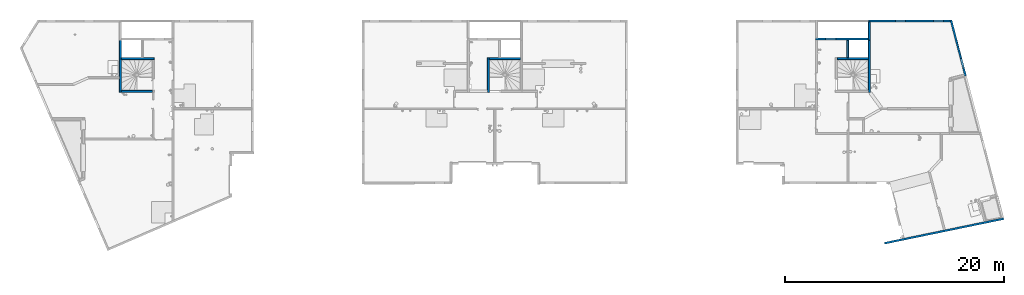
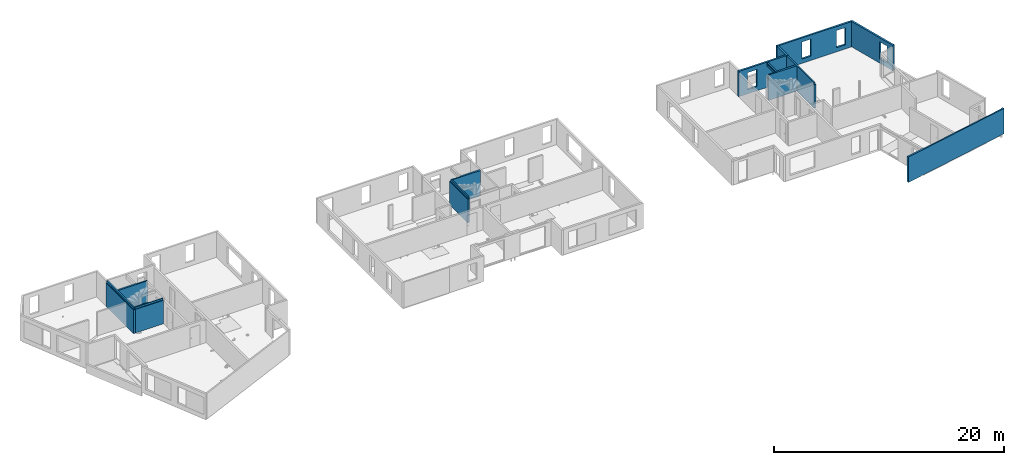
# One storey, part 16 of 24: 13 walls, 9 openings.
"""IFC2X3 building model written with IfcOpenShell, lengths in centimetres."""

from ifc_helpers import new_model, entity, si_unit, converted_unit, derived_unit, direction, frame, frame_2d, origin, place, context, subcontext, project, spatial, polyline, rectangle, outline, extrude, clip, bounded_halfspace, faceted_brep, material, layer, layer_set, layer_usage, type_object, element, save


model = new_model("IFC2X3")

# Units and contexts
model_context = context("Model", 3, precision=0.001, world=origin(), true_north=direction((6.12303176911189e-17, 1.0)))
body_context = subcontext(model_context, "Body", "Model", "MODEL_VIEW")
ifc_project = project(units=[si_unit("LENGTHUNIT", "METRE", prefix="CENTI"), si_unit("AREAUNIT", "SQUARE_METRE"), si_unit("VOLUMEUNIT", "CUBIC_METRE"), converted_unit("PLANEANGLEUNIT", "DEGREE", entity("IfcRatioMeasure", 0.0174532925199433), si_unit("PLANEANGLEUNIT", "RADIAN"), dimensions=[0, 0, 0, 0, 0, 0, 0]), si_unit("MASSUNIT", "GRAM", prefix="KILO"), derived_unit("MASSDENSITYUNIT", [(si_unit("MASSUNIT", "GRAM", prefix="KILO"), 1), (si_unit("LENGTHUNIT", "METRE"), -3)]), si_unit("TIMEUNIT", "SECOND"), si_unit("FREQUENCYUNIT", "HERTZ"), si_unit("THERMODYNAMICTEMPERATUREUNIT", "DEGREE_CELSIUS"), derived_unit("THERMALTRANSMITTANCEUNIT", [(si_unit("MASSUNIT", "GRAM", prefix="KILO"), 1), (si_unit("THERMODYNAMICTEMPERATUREUNIT", "KELVIN"), -1), (si_unit("TIMEUNIT", "SECOND"), -3)]), derived_unit("VOLUMETRICFLOWRATEUNIT", [(si_unit("LENGTHUNIT", "METRE"), 3), (si_unit("TIMEUNIT", "SECOND"), -1)]), si_unit("ELECTRICCURRENTUNIT", "AMPERE"), si_unit("ELECTRICVOLTAGEUNIT", "VOLT"), si_unit("POWERUNIT", "WATT"), si_unit("FORCEUNIT", "NEWTON"), si_unit("ILLUMINANCEUNIT", "LUX"), si_unit("LUMINOUSFLUXUNIT", "LUMEN"), si_unit("LUMINOUSINTENSITYUNIT", "CANDELA"), derived_unit("USERDEFINED", [(si_unit("MASSUNIT", "GRAM", prefix="KILO"), -1), (si_unit("LENGTHUNIT", "METRE"), -2), (si_unit("TIMEUNIT", "SECOND"), 3), (si_unit("LUMINOUSFLUXUNIT", "LUMEN"), 1)]), derived_unit("LINEARVELOCITYUNIT", [(si_unit("LENGTHUNIT", "METRE"), 1), (si_unit("TIMEUNIT", "SECOND"), -1)]), si_unit("PRESSUREUNIT", "PASCAL"), derived_unit("USERDEFINED", [(si_unit("LENGTHUNIT", "METRE"), -2), (si_unit("MASSUNIT", "GRAM", prefix="KILO"), 1), (si_unit("TIMEUNIT", "SECOND"), -2)])], contexts=[model_context])

# Site, building, storey
site_placement = place(None, origin())
site = spatial("IfcSite", under=ifc_project, at=site_placement, Name="Default", CompositionType="ELEMENT")
building_placement = place(site_placement, origin())
building = spatial("IfcBuilding", under=site, at=building_placement, Name="CAGE 03", CompositionType="ELEMENT")
storey_placement = place(building_placement, frame((0.0, 0.0, 1150.0)))
storey = spatial("IfcBuildingStorey", under=building, at=storey_placement, Name="R+4", CompositionType="ELEMENT", Elevation=1150.0)

# Wall, openings
ifc_material = material(Name="Béton, C25/30")
ifc_layer = layer(ifc_material, 18.0)
ifc_layer_set = layer_set([ifc_layer], Name="Mur de base:Voile BA 18")
ifc_layer_usage_1 = layer_usage(ifc_layer_set, "AXIS2", "NEGATIVE", 9.0)
wall_type_1 = type_object("IfcWallType", Name="Mur de base:Voile BA 18", PredefinedType="STANDARD", material=ifc_layer_set)
wall_1_placement = place(storey_placement, frame((11377.6052537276, 4784.05281693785, 0.0), z_axis=(0.0, 0.0, 1.0), x_axis=(-0.252679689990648, 0.967549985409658, 0.0)))
wall_1 = element("IfcWallStandardCase", 1, at=wall_1_placement, inside=storey, type_object=wall_type_1, material=ifc_layer_usage_1, Name="Mur de base:Voile BA 18", ObjectType="Mur de base:Voile BA 18", context=body_context, shape_type="SweptSolid", body=[
    extrude(outline(polyline([(524.348860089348, -9.0), (529.049634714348, 9.0), (510.445944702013, 9.0), (18.0, 9.0), (0.0, 9.0), (0.0, -9.0), (18.0, -9.0), (524.348860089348, -9.0)])), origin(), (0.0, 0.0, 1.0), 270.0),
])
opening_1_placement = place(wall_1_placement, origin())
element("IfcOpeningElement", 2, at=opening_1_placement, cuts=wall_1, Name="Mur de base:Voile BA 18", ObjectType="Recess", context=body_context, shape_type="SweptSolid", body=[
    extrude(rectangle(XDim=181.0, YDim=184.0, at=frame_2d((-4.2632564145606e-13, -1.06581410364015e-13), x_axis=(0.0, 1.0))), frame((256.0, -9.0, 135.5), z_axis=(0.0, 1.0, 0.0), x_axis=(1.0, 0.0, 0.0)), (0.0, 0.0, 1.0), 1.99999999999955),
])
opening_2_placement = place(wall_1_placement, origin())
element("IfcOpeningElement", 3, at=opening_2_placement, cuts=wall_1, Name="Mur de base:Voile BA 18", ObjectType="Recess", context=body_context, shape_type="SweptSolid", body=[
    extrude(rectangle(XDim=181.0, YDim=273.0, at=frame_2d((-2.1316282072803e-13, -1.06581410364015e-13), x_axis=(0.0, 1.0))), frame((-836.5, -9.0, 135.5), z_axis=(0.0, 1.0, 0.0), x_axis=(1.0, 0.0, 0.0)), (0.0, 0.0, 1.0), 1.99999999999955),
])
opening_3_placement = place(wall_1_placement, frame((-1753.9204648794, 12217.2347799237, 0.0), z_axis=(0.0, 0.0, 1.0), x_axis=(-0.252679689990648, -0.967549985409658, 0.0)))
element("IfcOpeningElement", 4, at=opening_3_placement, cuts=wall_1, Name="Mur de base:Voile BA 18", ObjectType="Opening", context=body_context, shape_type="SweptSolid", body=[
    extrude(rectangle(XDim=181.0, YDim=91.0000000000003, at=frame_2d((-2.1316282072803e-13, -2.16715534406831e-13), x_axis=(1.0, 0.0))), frame((11503.8252781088, 4939.48999217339, 135.5), z_axis=(-0.967549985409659, -0.252679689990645, 0.0), x_axis=(0.0, 0.0, 1.0)), (0.0, 0.0, 1.0), 304.8),
])

ifc_layer_usage_2 = layer_usage(ifc_layer_set, "AXIS2", "NEGATIVE", 9.0)
wall_2_placement = place(storey_placement, frame((11239.9179807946, 5284.66066607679, 0.0), z_axis=(0.0, 0.0, 1.0), x_axis=(-1.0, 0.0, 0.0)))
wall_2 = element("IfcWallStandardCase", 5, at=wall_2_placement, inside=storey, type_object=wall_type_1, material=ifc_layer_usage_2, Name="Mur de base:Voile BA 18", ObjectType="Mur de base:Voile BA 18", context=body_context, shape_type="SweptSolid", body=[
    extrude(outline(polyline([(749.552160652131, -9.0), (749.552160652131, 9.0), (731.552160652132, 9.0), (0.0, 9.0), (4.70077462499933, -9.0), (749.552160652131, -9.0)])), origin(), (0.0, 0.0, 1.0), 270.0),
])
opening_4_placement = place(wall_2_placement, origin())
element("IfcOpeningElement", 6, at=opening_4_placement, cuts=wall_2, Name="Mur de base:Voile BA 18", ObjectType="Recess", context=body_context, shape_type="SweptSolid", body=[
    extrude(rectangle(XDim=181.0, YDim=184.0, at=frame_2d((0.0, -1.06581410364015e-13), x_axis=(0.0, 1.0))), frame((591.552160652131, -9.0, 135.5), z_axis=(0.0, 1.0, 0.0), x_axis=(1.0, 0.0, 0.0)), (0.0, 0.0, 1.0), 1.99999999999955),
])
opening_5_placement = place(wall_2_placement, frame((11239.9179807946, 5284.66066607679, 0.0), z_axis=(0.0, 0.0, 1.0), x_axis=(-1.0, 0.0, 0.0)))
element("IfcOpeningElement", 7, at=opening_5_placement, cuts=wall_2, Name="Mur de base:Voile BA 18", ObjectType="Opening", context=body_context, shape_type="SweptSolid", body=[
    extrude(rectangle(XDim=181.0, YDim=90.9999999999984, at=frame_2d((-8.66862137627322e-13, 0.0), x_axis=(0.0, 1.0))), frame((10785.8658201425, 5428.06066607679, 135.5), z_axis=(0.0, -1.0, 0.0), x_axis=(1.0, 0.0, 0.0)), (0.0, 0.0, 1.0), 304.8),
])
opening_6_placement = place(wall_2_placement, frame((11239.9179807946, 5284.66066607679, 0.0), z_axis=(0.0, 0.0, 1.0), x_axis=(-1.0, 0.0, 0.0)))
element("IfcOpeningElement", 8, at=opening_6_placement, cuts=wall_2, Name="Mur de base:Voile BA 18", ObjectType="Opening", context=body_context, shape_type="SweptSolid", body=[
    extrude(rectangle(XDim=181.0, YDim=91.0000000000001, at=frame_2d((0.0, 0.0), x_axis=(0.0, 1.0))), frame((11130.8658201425, 5428.06066607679, 135.5), z_axis=(0.0, -1.0, 0.0), x_axis=(1.0, 0.0, 0.0)), (0.0, 0.0, 1.0), 304.8),
])

# Wall
ifc_layer_usage_3 = layer_usage(ifc_layer_set, "AXIS2", "POSITIVE", -9.0)
wall_3_placement = place(storey_placement, frame((10499.3658201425, 5275.66066607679, 0.0), z_axis=(0.0, 0.0, 1.0), x_axis=(0.0, -1.0, 0.0)))
element("IfcWallStandardCase", 9, at=wall_3_placement, inside=storey, type_object=wall_type_1, material=ifc_layer_usage_3, Name="Mur de base:Voile BA 18", ObjectType="Mur de base:Voile BA 18", context=body_context, shape_type="SweptSolid", body=[
    extrude(rectangle(XDim=164.999999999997, YDim=17.9999999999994, at=frame_2d((82.4999999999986, 1.11022302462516e-13), x_axis=(-1.0, 0.0))), origin(), (0.0, 0.0, 1.0), 270.0),
])

# Wall, openings
ifc_layer_usage_4 = layer_usage(ifc_layer_set, "AXIS2", "POSITIVE", -9.0)
wall_4_placement = place(storey_placement, frame((10490.3658201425, 5119.66066607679, 0.0), z_axis=(0.0, 0.0, 1.0), x_axis=(-1.0, 0.0, 0.0)))
wall_4 = element("IfcWallStandardCase", 10, at=wall_4_placement, inside=storey, type_object=wall_type_1, material=ifc_layer_usage_4, Name="Mur de base:Voile BA 18", ObjectType="Mur de base:Voile BA 18", context=body_context, shape_type="SweptSolid", body=[
    extrude(rectangle(XDim=480.0, YDim=17.9999999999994, at=frame_2d((240.0, -1.90958360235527e-13), x_axis=(-1.0, 0.0))), origin(), (0.0, 0.0, 1.0), 270.0),
])
opening_7_placement = place(wall_4_placement, origin())
element("IfcOpeningElement", 11, at=opening_7_placement, cuts=wall_4, Name="Mur de base:Voile BA 18", ObjectType="Opening", context=body_context, shape_type="SweptSolid", body=[
    extrude(rectangle(XDim=227.0, YDim=17.9999999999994, at=frame_2d((0.0, 0.0), x_axis=(0.0, 1.0))), frame((189.0, 9.0, 113.5), z_axis=(0.0, 1.0, 0.0), x_axis=(-1.0, 0.0, 0.0)), (0.0, 0.0, 1.0), 160.0),
])
opening_8_placement = place(wall_4_placement, frame((10490.3658201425, 5119.66066607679, 0.0), z_axis=(0.0, 0.0, 1.0), x_axis=(-1.0, 0.0, 0.0)))
element("IfcOpeningElement", 12, at=opening_8_placement, cuts=wall_4, Name="Mur de base:Voile BA 18", ObjectType="Opening", context=body_context, shape_type="SweptSolid", body=[
    extrude(rectangle(XDim=181.0, YDim=95.0000000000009, at=frame_2d((8.66862137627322e-13, 0.0), x_axis=(0.0, 1.0))), frame((10145.8658201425, 5263.06066607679, 135.5), z_axis=(0.0, -1.0, 0.0), x_axis=(1.0, 0.0, 0.0)), (0.0, 0.0, 1.0), 304.8),
])

# Wall, opening
ifc_layer_usage_5 = layer_usage(ifc_layer_set, "AXIS2", "NEGATIVE", 9.0)
wall_5_placement = place(storey_placement, frame((10301.3658201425, 5110.66066607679, 227.0), z_axis=(0.0, 0.0, 1.0), x_axis=(0.0, -1.0, 0.0)))
wall_5 = element("IfcWallStandardCase", 13, at=wall_5_placement, inside=storey, type_object=wall_type_1, material=ifc_layer_usage_5, Name="Mur de base:Voile BA 18", ObjectType="Mur de base:Voile BA 18", context=body_context, shape_type="Clipping", body=[
    clip(clip(extrude(rectangle(XDim=160.000000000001, YDim=17.9999999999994, at=frame_2d((80.0000000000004, 0.0), x_axis=(-1.0, 0.0))), origin(), (0.0, 0.0, 1.0), 36.0000000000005), bounded_halfspace(frame((160.0, -6.0, 23.0), z_axis=(0.0, 0.0, -1.0), x_axis=(1.0, 0.0, 0.0)), True, frame((160.0, -6.0, 23.0), z_axis=(0.0, 0.0, -1.0), x_axis=(1.0, 0.0, 0.0)), polyline([(0.0, 0.0), (0.0, 3.0), (-160.0, 3.0), (-160.0, 0.0), (0.0, 0.0)]))), bounded_halfspace(frame((0.0, -6.0, 23.0), z_axis=(0.0, 1.0, 0.0), x_axis=(0.0, 0.0, 1.0)), True, frame((0.0, -6.0, 23.0), z_axis=(0.0, 1.0, 0.0), x_axis=(0.0, 0.0, 1.0)), polyline([(0.0, 0.0), (13.0, 0.0), (13.0, 160.0), (0.0, 160.0), (0.0, 0.0)]))),
])
opening_9_placement = place(wall_5_placement, frame((5110.66066607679, -10301.3658201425, -227.0), z_axis=(0.0, 0.0, 1.0), x_axis=(0.0, 1.0, 0.0)))
element("IfcOpeningElement", 14, at=opening_9_placement, cuts=wall_5, Name="Mur de base:Voile BA 18", ObjectType="Opening", context=body_context, shape_type="SweptSolid", body=[
    extrude(rectangle(XDim=227.0, YDim=160.0, at=frame_2d((0.0, 0.0), x_axis=(0.0, 1.0))), frame((10157.9658201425, 5030.66066607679, 113.5), z_axis=(1.0, 0.0, 0.0), x_axis=(0.0, 1.0, 0.0)), (0.0, 0.0, 1.0), 304.8),
])

# Walls
wall_type_2 = type_object("IfcWallType", Name="Mur de base:premur 18", PredefinedType="NOTDEFINED")
wall_6_placement = place(storey_placement, frame((3672.36582014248, 4941.66066607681, 0.0)))
element("IfcWall", 15, at=wall_6_placement, inside=storey, type_object=wall_type_2, Name="Mur de base:premur 18", ObjectType="Mur de base:premur 18", context=body_context, shape_type="Brep", body=[
    faceted_brep([(0.0, -9.0, 0.0), (282.0, -9.0, 0.0), (294.5, -9.0, 0.0), (300.0, -9.0, 0.0), (300.0, -9.0, 250.0), (294.5, -9.0, 250.0), (294.5, -9.0, 270.0), (282.0, -9.0, 270.0), (198.0, -9.0, 270.0), (0.0, -9.0, 270.0), (300.0, 9.0, 0.0), (195.0, 9.0, 0.0), (0.0, 9.0, 0.0), (0.0, 9.0, 270.0), (195.0, 9.0, 270.0), (195.0, 9.0, 250.0), (300.0, 9.0, 250.0), (294.5, 3.50000000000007, 270.0), (195.0, 3.50000000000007, 270.0), (195.0, 3.50000000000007, 250.0), (294.5, 3.50000000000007, 250.0)], [[[0, 1, 2, 3, 4, 5, 6, 7, 8, 9]], [[10, 11, 12, 13, 14, 15, 16]], [[3, 2, 1, 0, 12, 11, 10]], [[13, 9, 8, 7, 6, 17, 18, 14]], [[3, 10, 16, 4]], [[0, 9, 13, 12]], [[19, 20, 5, 4, 16, 15]], [[20, 19, 18, 17]], [[20, 17, 6, 5]], [[18, 19, 15, 14]]]),
])
wall_7_placement = place(storey_placement, frame((3663.36582014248, 5110.66066607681, 0.0), z_axis=(0.0, 0.0, 1.0), x_axis=(0.0, -1.0, 0.0)))
element("IfcWall", 16, at=wall_7_placement, inside=storey, type_object=wall_type_2, Name="Mur de base:premur 18", ObjectType="Mur de base:premur 18", context=body_context, shape_type="Brep", body=[
    faceted_brep([(0.0, -9.0, 0.0), (335.5, -9.0, 0.0), (351.5, -9.0, 0.0), (478.0, -9.0, 0.0), (478.0, -9.0, 250.0), (414.499999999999, -9.0, 250.0), (351.5, -9.0, 250.0), (335.5, -9.0, 250.0), (0.0, -9.0, 250.0), (478.0, 9.0, 0.0), (472.499999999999, 9.0, 0.0), (460.0, 9.0, 0.0), (178.0, 9.0, 0.0), (160.0, 9.0, 0.0), (0.0, 9.0, 0.0), (0.0, 9.0, 270.0), (160.0, 9.0, 270.0), (178.0, 9.0, 270.0), (460.0, 9.0, 270.0), (472.5, 9.0, 270.0), (472.5, 9.0, 250.0), (478.0, 9.0, 250.0), (0.0, -3.50000000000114, 0.0), (0.0, -3.5000000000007, 270.0), (472.5, -3.499999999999, 270.0), (478.0, -2.0, 250.0), (0.0, -3.5000000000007, 250.0), (472.5, -3.499999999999, 250.0)], [[[0, 1, 2, 3, 4, 5, 6, 7, 8]], [[9, 10, 11, 12, 13, 14, 15, 16, 17, 18, 19, 20, 21]], [[3, 2, 1, 0, 22, 14, 13, 12, 11, 10, 9]], [[19, 18, 17, 16, 15, 23, 24]], [[3, 9, 21, 25, 4]], [[15, 14, 22, 0, 8, 26, 23]], [[27, 26, 8, 7, 6, 5, 4, 25, 21, 20]], [[24, 27, 20, 19]], [[26, 27, 24, 23]]]),
])
wall_8_placement = place(storey_placement, frame((3672.36582014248, 4641.66066607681, 0.0)))
element("IfcWall", 17, at=wall_8_placement, inside=storey, type_object=wall_type_2, Name="Mur de base:premur 18", ObjectType="Mur de base:premur 18", context=body_context, shape_type="Brep", body=[
    faceted_brep([(0.0, -9.0, 0.0), (282.0, -9.0, 0.0), (282.0, -9.0, 250.0), (58.0, -9.0, 250.0), (0.0, -9.0, 250.0), (282.0, 9.0, 0.0), (141.0, 9.0, 0.0), (0.0, 9.0, 0.0), (0.0, 9.0, 270.0), (141.0, 9.0, 270.0), (141.0, 9.0, 250.0), (282.0, 9.0, 250.0), (282.0, 9.0, 210.0), (0.0, -3.50000000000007, 0.0), (282.0, 3.50000000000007, 0.0), (282.0, -3.4999999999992, 0.0), (0.0, -3.50000000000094, 270.0), (282.0, -3.50000000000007, 270.0), (282.0, 3.50000000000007, 270.0), (141.0, 3.50000000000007, 270.0), (0.0, -3.50000000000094, 250.0), (282.0, 3.50000000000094, 250.0), (282.0, -3.50000000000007, 250.0), (141.0, 3.50000000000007, 250.0)], [[[0, 1, 2, 3, 4]], [[5, 6, 7, 8, 9, 10, 11, 12]], [[1, 0, 13, 7, 6, 5, 14, 15]], [[16, 17, 18, 19, 9, 8]], [[8, 7, 13, 0, 4, 20, 16]], [[1, 15, 14, 5, 12, 11, 21, 18, 17, 22, 2]], [[3, 2, 22, 20, 4]], [[17, 16, 20, 22]], [[23, 21, 11, 10]], [[19, 23, 10, 9]], [[23, 19, 18, 21]]]),
])
wall_9_placement = place(storey_placement, frame((7022.36582014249, 4632.6606660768, 0.0), z_axis=(0.0, 0.0, 1.0), x_axis=(0.0, 1.0, 0.0)))
element("IfcWall", 18, at=wall_9_placement, inside=storey, type_object=wall_type_2, Name="Mur de base:premur 18", ObjectType="Mur de base:premur 18", context=body_context, shape_type="Brep", body=[
    faceted_brep([(0.0, -9.0, 0.0), (5.50000000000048, -9.0, 0.0), (300.0, -9.0, 0.0), (312.499999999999, -9.0, 0.0), (318.0, -9.0, 0.0), (318.0, -9.0, 250.0), (312.499999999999, -9.0, 250.0), (312.499999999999, -9.0, 270.0), (300.0, -9.0, 270.0), (12.5000000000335, -9.0, 270.0), (5.50000000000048, -9.0, 270.0), (5.50000000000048, -9.0, 250.0), (0.0, -9.0, 250.0), (0.0, -9.0, 210.0), (318.0, 9.0, 0.0), (0.0, 9.0, 0.0), (0.0, 9.0, 250.0), (318.0, 9.0, 250.0), (312.499999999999, 3.49999999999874, 270.0), (5.50000000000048, 3.49999999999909, 270.0), (5.50000000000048, 3.49999999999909, 250.0), (312.499999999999, 3.49999999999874, 250.0)], [[[0, 1, 2, 3, 4, 5, 6, 7, 8, 9, 10, 11, 12, 13]], [[14, 15, 16, 17]], [[4, 3, 2, 1, 0, 15, 14]], [[10, 9, 8, 7, 18, 19]], [[4, 14, 17, 5]], [[15, 0, 13, 12, 16]], [[20, 21, 6, 5, 17, 16, 12, 11]], [[21, 18, 7, 6]], [[21, 20, 19, 18]], [[19, 20, 11, 10]]]),
])
wall_10_placement = place(storey_placement, frame((7031.36582014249, 4941.6606660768, 0.0)))
element("IfcWall", 19, at=wall_10_placement, inside=storey, type_object=wall_type_2, Name="Mur de base:premur 18", ObjectType="Mur de base:premur 18", context=body_context, shape_type="Brep", body=[
    faceted_brep([(0.0, -9.0, 0.0), (282.0, -9.0, 0.0), (282.0, -9.0, 270.0), (102.0, -9.0, 270.0), (0.0, -9.0, 270.0), (282.0, 9.0, 0.0), (87.0, 9.0, 0.0), (0.0, 9.0, 0.0), (0.0, 9.0, 250.0), (87.0, 9.0, 250.0), (87.0, 9.0, 270.0), (102.0, 9.0, 270.0), (282.0, 9.0, 270.0), (0.0, 3.50000000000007, 0.0), (87.0, 3.50000000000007, 270.0), (0.0, 3.50000000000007, 270.0), (0.0, 3.50000000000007, 250.0), (87.0, 3.50000000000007, 250.0)], [[[0, 1, 2, 3, 4]], [[5, 6, 7, 8, 9, 10, 11, 12]], [[1, 0, 13, 7, 6, 5]], [[4, 3, 2, 12, 11, 10, 14, 15]], [[0, 4, 15, 16, 8, 7, 13]], [[2, 1, 5, 12]], [[17, 9, 8, 16]], [[14, 17, 16, 15]], [[17, 14, 10, 9]]]),
])
wall_11_placement = place(storey_placement, frame((10208.3658201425, 4941.66066607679, 0.0)))
element("IfcWall", 20, at=wall_11_placement, inside=storey, type_object=wall_type_2, Name="Mur de base:premur 18", ObjectType="Mur de base:premur 18", context=body_context, shape_type="Brep", body=[
    faceted_brep([(0.0, -9.0, 0.0), (282.0, -9.0, 0.0), (282.0, -9.0, 270.0), (102.0, -9.0, 270.0), (0.0, -9.0, 270.0), (282.0, 9.0, 0.0), (87.0, 9.0, 0.0), (0.0, 9.0, 0.0), (0.0, 9.0, 250.0), (87.0, 9.0, 250.0), (87.0, 9.0, 270.0), (102.0, 9.0, 270.0), (282.0, 9.0, 270.0), (0.0, 3.50000000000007, 0.0), (87.0, 3.50000000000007, 270.0), (0.0, 3.50000000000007, 270.0), (0.0, 3.50000000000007, 250.0), (87.0, 3.50000000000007, 250.0)], [[[0, 1, 2, 3, 4]], [[5, 6, 7, 8, 9, 10, 11, 12]], [[1, 0, 13, 7, 6, 5]], [[4, 3, 2, 12, 11, 10, 14, 15]], [[0, 4, 15, 16, 8, 7, 13]], [[2, 1, 5, 12]], [[16, 17, 9, 8]], [[14, 17, 16, 15]], [[17, 14, 10, 9]]]),
])
wall_12_placement = place(storey_placement, frame((10637.7468620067, 3255.95402323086, 0.0), z_axis=(0.0, 0.0, 1.0), x_axis=(0.979414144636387, 0.201861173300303, 0.0)))
element("IfcWall", 21, at=wall_12_placement, inside=storey, type_object=wall_type_2, Name="Mur de base:premur 18", ObjectType="Mur de base:premur 18", context=body_context, shape_type="Brep", body=[
    faceted_brep([(0.0, -9.0, 0.0), (1112.01416291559, -9.0, 0.0), (1112.01416291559, -9.0, 270.0), (946.789185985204, -9.0, 270.0), (0.0, -9.0, 270.0), (1112.01416291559, 9.0, 0.0), (946.789185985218, 9.0, 0.0), (928.764643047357, 9.0, 0.0), (569.775829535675, 9.0, 0.0), (551.751286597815, 9.0, 0.0), (185.252246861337, 9.0, 0.0), (167.227703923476, 9.0, 0.0), (0.0, 9.0, 0.0), (0.0, 9.0, 270.0), (167.227703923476, 9.0, 270.0), (185.252246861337, 9.0, 270.0), (185.252246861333, 9.0, 250.0), (551.751286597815, 9.0, 250.0), (569.775829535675, 9.0, 250.0), (928.764643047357, 9.0, 250.0), (946.789185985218, 9.0, 250.0), (1093.98961997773, 9.0, 250.0), (1093.98961997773, 9.0, 270.0), (1112.01416291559, 9.0, 270.0), (946.789185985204, 3.4999999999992, 270.0), (185.539558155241, 3.4999999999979, 270.0), (1094.27693127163, 3.50000000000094, 270.0), (185.539558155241, 3.4999999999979, 250.0), (1094.27693127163, 3.50000000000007, 250.0)], [[[0, 1, 2, 3, 4]], [[5, 6, 7, 8, 9, 10, 11, 12, 13, 14, 15, 16, 17, 18, 19, 20, 21, 22, 23]], [[1, 0, 12, 11, 10, 9, 8, 7, 6, 5]], [[2, 1, 5, 23]], [[0, 4, 13, 12]], [[13, 4, 3, 24, 25, 15, 14]], [[3, 2, 23, 22, 26, 24]], [[27, 28, 21, 20, 19, 18, 17, 16]], [[28, 26, 22, 21]], [[28, 27, 25, 24, 26]], [[25, 27, 16, 15]]]),
])
wall_13_placement = place(storey_placement, frame((10499.3658201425, 5110.66066607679, 0.0), z_axis=(0.0, 0.0, 1.0), x_axis=(0.0, -1.0, 0.0)))
element("IfcWall", 22, at=wall_13_placement, inside=storey, type_object=wall_type_2, Name="Mur de base:premur 18", ObjectType="Mur de base:premur 18", context=body_context, shape_type="Brep", body=[
    faceted_brep([(0.0, -9.0, 0.0), (160.0, -9.0, 0.0), (178.0, -9.0, 0.0), (460.0, -9.0, 0.0), (472.500000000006, -9.0, 0.0), (478.0, -9.0, 0.0), (478.0, -9.0, 250.0), (472.500000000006, -9.0, 250.0), (472.500000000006, -9.0, 270.0), (460.0, -9.0, 270.0), (178.0, -9.0, 270.0), (160.0, -9.0, 270.0), (0.0, -9.0, 270.0), (478.0, 9.0, 0.0), (391.0, 9.0, 0.0), (271.0, 9.0, 0.0), (0.0, 9.0, 0.0), (0.0, 9.0, 250.0), (424.0, 9.0, 250.0), (471.0, 9.0, 250.0), (478.0, 9.0, 250.0), (0.0, 3.49999999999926, 0.0), (472.500000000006, 3.49999999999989, 270.0), (0.0, 3.49999999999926, 270.0), (0.0, 3.49999999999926, 250.0), (472.500000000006, 3.49999999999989, 250.0)], [[[0, 1, 2, 3, 4, 5, 6, 7, 8, 9, 10, 11, 12]], [[13, 14, 15, 16, 17, 18, 19, 20]], [[5, 4, 3, 2, 1, 0, 21, 16, 15, 14, 13]], [[12, 11, 10, 9, 8, 22, 23]], [[5, 13, 20, 6]], [[0, 12, 23, 24, 17, 16, 21]], [[24, 25, 7, 6, 20, 19, 18, 17]], [[25, 22, 8, 7]], [[25, 24, 23, 22]]]),
])

save(model, "model.ifc")
